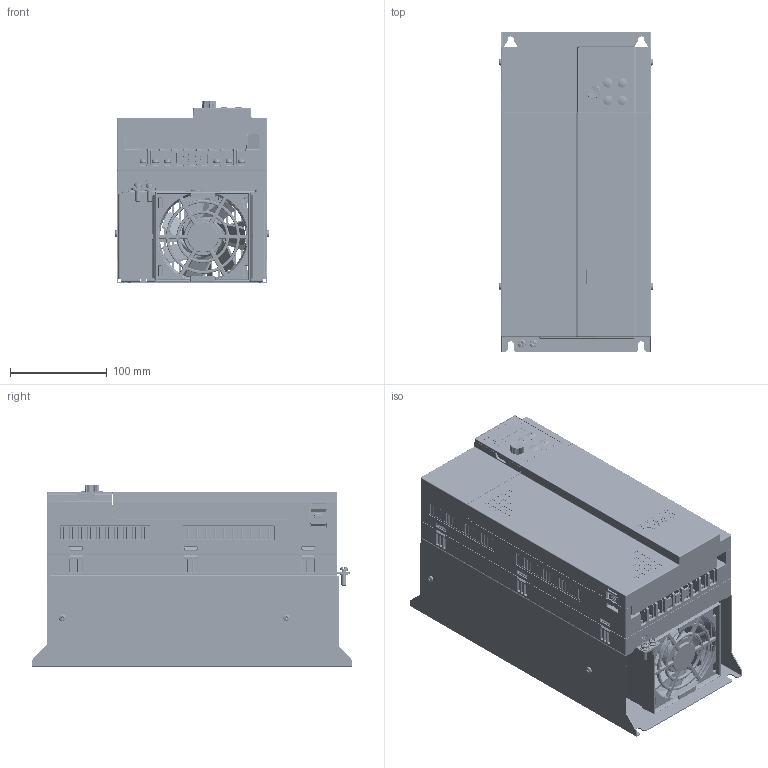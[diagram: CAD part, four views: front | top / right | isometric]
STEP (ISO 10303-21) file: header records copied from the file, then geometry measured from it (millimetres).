
FILE_DESCRIPTION((''),'2;1');
FILE_NAME('AD80-S3-DRIVE_ASM','2025-06-26T10:45:49',('wendong.luo'),(''),'CREO PARAMETRIC BY PTC INC, 2024374','CREO PARAMETRIC BY PTC INC, 2024374','');
FILE_SCHEMA(('CONFIG_CONTROL_DESIGN','GEOMETRIC_VALIDATION_PROPERTIES_MIM'));
Products named in the file (37): S3-MECHANICAL-PART; M0104160; M0104021; FAN9238; FAN-ASM-9238_ASM; M0104161; E0100292; E0400085; E0400084; E0400074; E0400035; E0400088; E0400086; E0100292_ASM; E0400157; M0203177; M0100011; M0100015; M0202003; M0202000; M0202007; S3_FASTEN_ASM; M0104162; M0203053; AD80-S3-PU_ASM; AD80-LCP-MECHANICAL_PART; E0100294; 0805-LED; E0200191; E0200192; E0400038; E0300012; E0400011; E0100294_ASM; M0203065_00; AD80-KP00_ASM; AD80-S3-DRIVE_ASM
Assembly tree (59 placements, depth 4):
  AD80-S3-DRIVE_ASM
    AD80-S3-PU_ASM
      S3-MECHANICAL-PART
      M0104160
      FAN-ASM-9238_ASM
        M0104021
        FAN9238
      M0104161
      E0100292_ASM
        E0100292
        E0400085  x3
        E0400084  x2
        E0400074
        E0400035
        E0400088
        E0400086  x3
      E0400157
      M0203177
      M0100011
      M0100015  x2
      S3_FASTEN_ASM
        M0202003  x4
        M0202000  x5
        M0202007  x2
      M0104162
      M0203053
    AD80-KP00_ASM
      AD80-LCP-MECHANICAL_PART
      E0100294_ASM
        E0100294
        0805-LED  x6
        E0200191
        E0200192
        E0400038  x4
        E0300012
        E0400035
        E0400011
      M0203065_00
Bounding box: 160.03 x 330 x 188.56 mm (x, y, z)
Volume: 1785925.1 mm3; surface area: 919098.1 mm2
Topology: 64 solids, 147 shells, 17091 faces, 45761 edges, 29491 vertices
Faces by surface type: plane 9157, cylinder 3725, bspline 1862, extrusion 1166, cone 627, torus 295, sphere 241, revolution 18
Entity records: 654569 total; most frequent: CARTESIAN_POINT 182413, ORIENTED_EDGE 77888, DIRECTION 62556, EDGE_CURVE 39088, PRESENTATION_STYLE_ASSIGNMENT 36287, STYLED_ITEM 35154, CURVE_STYLE 34725, VECTOR 25752
